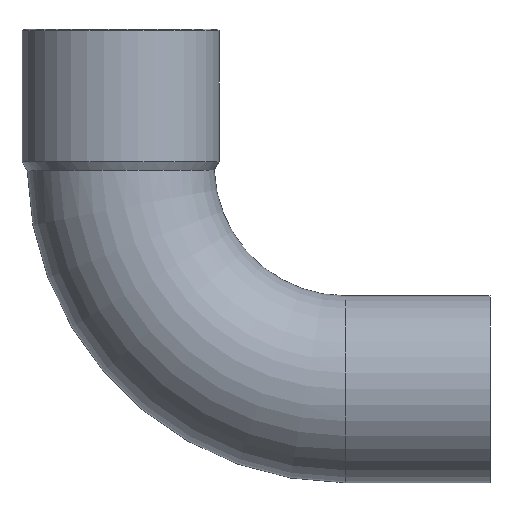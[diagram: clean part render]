
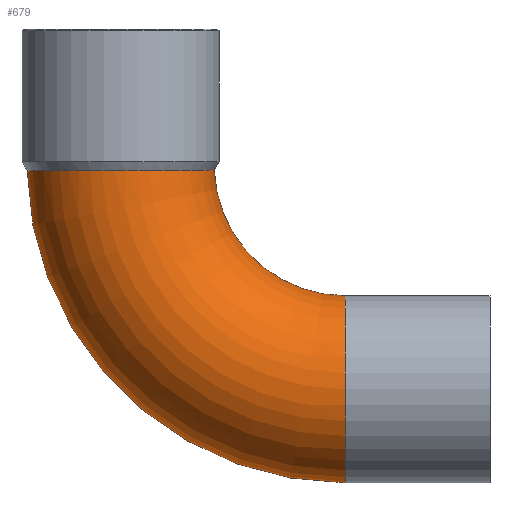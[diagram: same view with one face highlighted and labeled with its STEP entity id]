
A CAD part, front view. The second image highlights one B-rep face of the part: STEP entity #679.
In plain terms, the highlighted toroidal (fillet/blend) face has major radius 48 mm and minor radius 20 mm.
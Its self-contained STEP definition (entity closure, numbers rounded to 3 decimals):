
#49=CARTESIAN_POINT('',(-45.954,0.,-1.219));
#50=VERTEX_POINT('',#49);
#51=CARTESIAN_POINT('',(22.035,0.,-68.0));
#52=VERTEX_POINT('',#51);
#53=CARTESIAN_POINT('',(22.035,0.,0.0));
#54=DIRECTION('',(0.0,-1.0,0.0));
#55=DIRECTION('',(0.0,0.0,-1.0));
#56=AXIS2_PLACEMENT_3D('',#53,#54,#55);
#57=CIRCLE('',#56,68.0);
#58=EDGE_CURVE('',#50,#52,#57,.T.);
#60=CARTESIAN_POINT('',(-5.941,0.,-1.158));
#61=VERTEX_POINT('',#60);
#85=CARTESIAN_POINT('',(22.035,0.,-28.0));
#86=VERTEX_POINT('',#85);
#87=CARTESIAN_POINT('',(22.035,0.,0.0));
#88=DIRECTION('',(0.0,1.0,0.0));
#89=DIRECTION('',(0.0,0.0,-1.0));
#90=AXIS2_PLACEMENT_3D('',#87,#88,#89);
#91=CIRCLE('',#90,28.0);
#92=EDGE_CURVE('',#86,#61,#91,.T.);
#210=CARTESIAN_POINT('',(-5.941,0.,-1.158));
#211=CARTESIAN_POINT('',(-5.941,-0.174,-1.158));
#212=CARTESIAN_POINT('',(-5.943,-0.348,-1.158));
#213=CARTESIAN_POINT('',(-6.016,-3.125,-1.159));
#214=CARTESIAN_POINT('',(-6.592,-5.69,-1.161));
#215=CARTESIAN_POINT('',(-8.695,-10.455,-1.167));
#216=CARTESIAN_POINT('',(-10.203,-12.61,-1.171));
#217=CARTESIAN_POINT('',(-13.96,-16.222,-1.18));
#218=CARTESIAN_POINT('',(-16.174,-17.643,-1.185));
#219=CARTESIAN_POINT('',(-21.021,-19.558,-1.193));
#220=CARTESIAN_POINT('',(-23.609,-20.033,-1.197));
#221=CARTESIAN_POINT('',(-28.819,-19.964,-1.204));
#222=CARTESIAN_POINT('',(-31.392,-19.421,-1.207));
#223=CARTESIAN_POINT('',(-36.186,-17.38,-1.211));
#224=CARTESIAN_POINT('',(-38.36,-15.901,-1.213));
#225=CARTESIAN_POINT('',(-42.018,-12.194,-1.216));
#226=CARTESIAN_POINT('',(-43.468,-10.001,-1.217));
#227=CARTESIAN_POINT('',(-45.445,-5.183,-1.219));
#228=CARTESIAN_POINT('',(-45.954,-2.604,-1.219));
#229=CARTESIAN_POINT('',(-45.954,0.,-1.219));
#230=B_SPLINE_CURVE_WITH_KNOTS('',3,(#210,#211,#212,#213,#214,#215,#216,#217,#218,#219,#220,#221,#222,#223,#224,#225,#226,#227,#228,#229),.UNSPECIFIED.,.F.,.U.,(4,2,2,2,2,2,2,2,2,4),(-6.304,-6.252,-5.47,-4.689,-3.907,-3.125,-2.344,-1.562,-0.781,0.0),.UNSPECIFIED.);
#231=EDGE_CURVE('',#61,#50,#230,.T.);
#535=CARTESIAN_POINT('',(22.035,0.,-48.0));
#536=DIRECTION('',(-1.0,0.0,0.0));
#537=DIRECTION('',(0.0,0.0,-1.0));
#538=AXIS2_PLACEMENT_3D('',#535,#536,#537);
#539=CIRCLE('',#538,20.0);
#540=EDGE_CURVE('',#52,#86,#539,.T.);
#668=CARTESIAN_POINT('',(22.035,0.,0.0));
#669=DIRECTION('',(0.0,-1.0,0.0));
#670=DIRECTION('',(0.0,0.0,-1.0));
#671=AXIS2_PLACEMENT_3D('',#668,#669,#670);
#672=TOROIDAL_SURFACE('',#671,48.0,20.0);
#673=ORIENTED_EDGE('',*,*,#58,.T.);
#674=ORIENTED_EDGE('',*,*,#540,.T.);
#675=ORIENTED_EDGE('',*,*,#92,.T.);
#676=ORIENTED_EDGE('',*,*,#231,.T.);
#677=EDGE_LOOP('',(#673,#674,#675,#676));
#678=FACE_OUTER_BOUND('',#677,.T.);
#679=ADVANCED_FACE('',(#678),#672,.T.);
